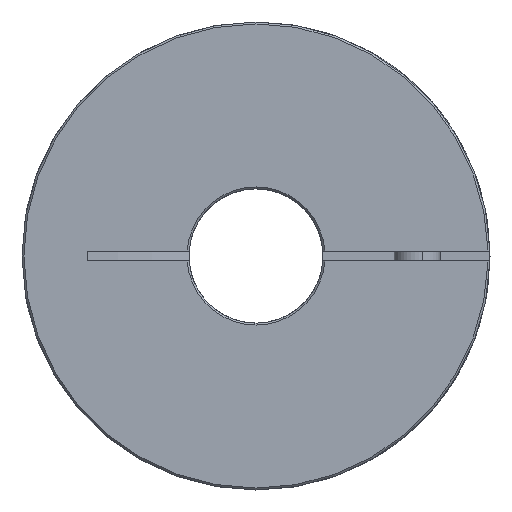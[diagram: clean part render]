
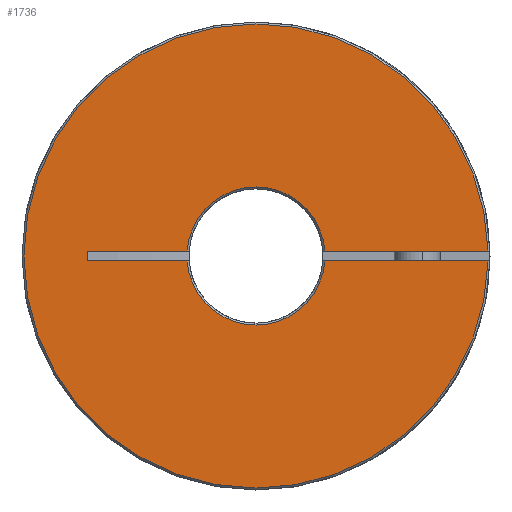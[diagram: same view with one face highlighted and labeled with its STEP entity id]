
A CAD part, left-side view. The second image highlights one B-rep face of the part: STEP entity #1736.
In plain terms, the highlighted planar face has unit normal (-1, 0, 0).
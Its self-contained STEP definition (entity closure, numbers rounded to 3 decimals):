
#29 = ORIENTED_EDGE ( 'NONE', *, *, #1757, .F. ) ;
#41 = VERTEX_POINT ( 'NONE', #2368 ) ;
#64 = EDGE_CURVE ( 'NONE', #513, #41, #2423, .T. ) ;
#82 = VERTEX_POINT ( 'NONE', #2490 ) ;
#217 = EDGE_CURVE ( 'NONE', #2045, #306, #3447, .T. ) ;
#234 = VERTEX_POINT ( 'NONE', #3627 ) ;
#306 = VERTEX_POINT ( 'NONE', #4251 ) ;
#329 = EDGE_CURVE ( 'NONE', #234, #2147, #4504, .T. ) ;
#475 = ORIENTED_EDGE ( 'NONE', *, *, #64, .T. ) ;
#513 = VERTEX_POINT ( 'NONE', #2846 ) ;
#533 = EDGE_CURVE ( 'NONE', #2147, #513, #2977, .T. ) ;
#555 = ORIENTED_EDGE ( 'NONE', *, *, #533, .T. ) ;
#597 = ORIENTED_EDGE ( 'NONE', *, *, #329, .T. ) ;
#645 = VERTEX_POINT ( 'NONE', #3961 ) ;
#690 = ORIENTED_EDGE ( 'NONE', *, *, #217, .T. ) ;
#840 = CIRCLE ( 'NONE', #841, 60.5 ) ;
#841 = AXIS2_PLACEMENT_3D ( 'NONE', #842, #843, #844 ) ;
#842 = CARTESIAN_POINT ( 'NONE',  ( 0., 0., 0. ) ) ;
#843 = DIRECTION ( 'NONE',  ( -1., 0., 0. ) ) ;
#844 = DIRECTION ( 'NONE',  ( 0., 0., -1. ) ) ;
#877 = EDGE_CURVE ( 'NONE', #645, #234, #4143, .T. ) ;
#1004 = CARTESIAN_POINT ( 'NONE',  ( 0., 43.826, -1.3 ) ) ;
#1035 = EDGE_CURVE ( 'NONE', #1721, #645, #4356, .T. ) ;
#1088 = FACE_OUTER_BOUND ( 'NONE', #1698, .T. ) ;
#1089 = PLANE ( 'NONE',  #1090 ) ;
#1090 = AXIS2_PLACEMENT_3D ( 'NONE', #1091, #1092, #1096 ) ;
#1091 = CARTESIAN_POINT ( 'NONE',  ( 0., 17.5, 0. ) ) ;
#1092 = DIRECTION ( 'NONE',  ( 1., 0., 0. ) ) ;
#1096 = DIRECTION ( 'NONE',  ( 0., 0., -1. ) ) ;
#1156 = LINE ( 'NONE', #1157, #1158 ) ;
#1157 = CARTESIAN_POINT ( 'NONE',  ( 0., 17.5, -1.3 ) ) ;
#1158 = VECTOR ( 'NONE', #1159, 1000. ) ;
#1159 = DIRECTION ( 'NONE',  ( 0., -1., 0. ) ) ;
#1200 = CARTESIAN_POINT ( 'NONE',  ( 0., 0., 18. ) ) ;
#1232 = ORIENTED_EDGE ( 'NONE', *, *, #2232, .T. ) ;
#1270 = ORIENTED_EDGE ( 'NONE', *, *, #877, .T. ) ;
#1319 = CIRCLE ( 'NONE', #1320, 60.5 ) ;
#1320 = AXIS2_PLACEMENT_3D ( 'NONE', #1323, #1324, #1325 ) ;
#1323 = CARTESIAN_POINT ( 'NONE',  ( 0., 0., 0. ) ) ;
#1324 = DIRECTION ( 'NONE',  ( -1., 0., 0. ) ) ;
#1325 = DIRECTION ( 'NONE',  ( 0., 0., -1. ) ) ;
#1417 = ORIENTED_EDGE ( 'NONE', *, *, #1035, .T. ) ;
#1505 = CIRCLE ( 'NONE', #1506, 18. ) ;
#1506 = AXIS2_PLACEMENT_3D ( 'NONE', #1507, #1508, #1509 ) ;
#1507 = CARTESIAN_POINT ( 'NONE',  ( 0., 0., 0. ) ) ;
#1508 = DIRECTION ( 'NONE',  ( 1., 0., 0. ) ) ;
#1509 = DIRECTION ( 'NONE',  ( 0., 0., -1. ) ) ;
#1685 = EDGE_CURVE ( 'NONE', #41, #2032, #840, .T. ) ;
#1698 = EDGE_LOOP ( 'NONE', ( #1270, #597, #555, #475, #1752, #1232, #690, #4226, #3017, #29, #1417 ) ) ;
#1721 = VERTEX_POINT ( 'NONE', #1004 ) ;
#1736 = ADVANCED_FACE ( 'NONE', ( #1088 ), #1089, .F. ) ;
#1752 = ORIENTED_EDGE ( 'NONE', *, *, #1685, .T. ) ;
#1757 = EDGE_CURVE ( 'NONE', #1721, #82, #1156, .T. ) ;
#2032 = VERTEX_POINT ( 'NONE', #4142 ) ;
#2045 = VERTEX_POINT ( 'NONE', #4353 ) ;
#2147 = VERTEX_POINT ( 'NONE', #1200 ) ;
#2232 = EDGE_CURVE ( 'NONE', #2032, #2045, #1319, .T. ) ;
#2368 = CARTESIAN_POINT ( 'NONE',  ( 0., -60.486, 1.3 ) ) ;
#2423 = LINE ( 'NONE', #2424, #2425 ) ;
#2424 = CARTESIAN_POINT ( 'NONE',  ( 0., 17.5, 1.3 ) ) ;
#2425 = VECTOR ( 'NONE', #2426, 1000. ) ;
#2426 = DIRECTION ( 'NONE',  ( 0., -1., 0. ) ) ;
#2490 = CARTESIAN_POINT ( 'NONE',  ( 0., 17.953, -1.3 ) ) ;
#2663 = EDGE_CURVE ( 'NONE', #3659, #82, #1505, .T. ) ;
#2846 = CARTESIAN_POINT ( 'NONE',  ( 0., -17.953, 1.3 ) ) ;
#2977 = CIRCLE ( 'NONE', #2978, 18. ) ;
#2978 = AXIS2_PLACEMENT_3D ( 'NONE', #2979, #2980, #2981 ) ;
#2979 = CARTESIAN_POINT ( 'NONE',  ( 0., 0., 0. ) ) ;
#2980 = DIRECTION ( 'NONE',  ( 1., 0., 0. ) ) ;
#2981 = DIRECTION ( 'NONE',  ( 0., 0., -1. ) ) ;
#3017 = ORIENTED_EDGE ( 'NONE', *, *, #2663, .T. ) ;
#3199 = CARTESIAN_POINT ( 'NONE',  ( 0., -17.953, -1.3 ) ) ;
#3365 = LINE ( 'NONE', #3366, #3367 ) ;
#3366 = CARTESIAN_POINT ( 'NONE',  ( 0., 17.5, -1.3 ) ) ;
#3367 = VECTOR ( 'NONE', #3368, 1000. ) ;
#3368 = DIRECTION ( 'NONE',  ( 0., -1., 0. ) ) ;
#3447 = CIRCLE ( 'NONE', #3448, 60.5 ) ;
#3448 = AXIS2_PLACEMENT_3D ( 'NONE', #3449, #3450, #3451 ) ;
#3449 = CARTESIAN_POINT ( 'NONE',  ( 0., 0., 0. ) ) ;
#3450 = DIRECTION ( 'NONE',  ( -1., 0., 0. ) ) ;
#3451 = DIRECTION ( 'NONE',  ( 0., 0., -1. ) ) ;
#3627 = CARTESIAN_POINT ( 'NONE',  ( 0., 17.953, 1.3 ) ) ;
#3659 = VERTEX_POINT ( 'NONE', #3199 ) ;
#3867 = EDGE_CURVE ( 'NONE', #3659, #306, #3365, .T. ) ;
#3961 = CARTESIAN_POINT ( 'NONE',  ( 0., 43.826, 1.3 ) ) ;
#4142 = CARTESIAN_POINT ( 'NONE',  ( 0., 0., 60.5 ) ) ;
#4143 = LINE ( 'NONE', #4144, #4145 ) ;
#4144 = CARTESIAN_POINT ( 'NONE',  ( 0., 17.5, 1.3 ) ) ;
#4145 = VECTOR ( 'NONE', #4146, 1000. ) ;
#4146 = DIRECTION ( 'NONE',  ( 0., -1., 0. ) ) ;
#4226 = ORIENTED_EDGE ( 'NONE', *, *, #3867, .F. ) ;
#4251 = CARTESIAN_POINT ( 'NONE',  ( 0., -60.486, -1.3 ) ) ;
#4353 = CARTESIAN_POINT ( 'NONE',  ( 0., 0., -60.5 ) ) ;
#4356 = LINE ( 'NONE', #4357, #4358 ) ;
#4357 = CARTESIAN_POINT ( 'NONE',  ( 0., 43.826, -1.3 ) ) ;
#4358 = VECTOR ( 'NONE', #4359, 1000. ) ;
#4359 = DIRECTION ( 'NONE',  ( 0., 0., 1. ) ) ;
#4504 = CIRCLE ( 'NONE', #4505, 18. ) ;
#4505 = AXIS2_PLACEMENT_3D ( 'NONE', #4506, #4507, #4508 ) ;
#4506 = CARTESIAN_POINT ( 'NONE',  ( 0., 0., 0. ) ) ;
#4507 = DIRECTION ( 'NONE',  ( 1., 0., 0. ) ) ;
#4508 = DIRECTION ( 'NONE',  ( 0., 0., -1. ) ) ;
